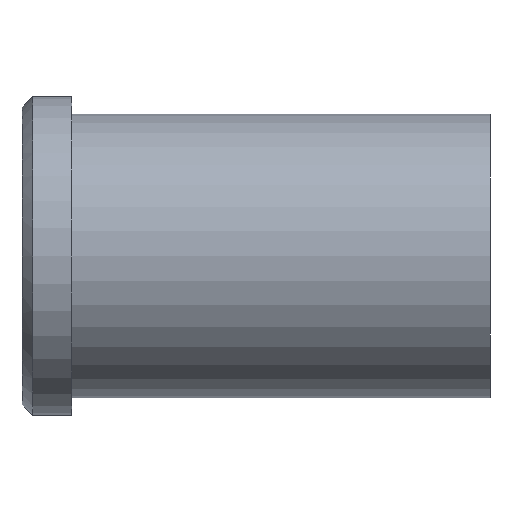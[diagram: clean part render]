
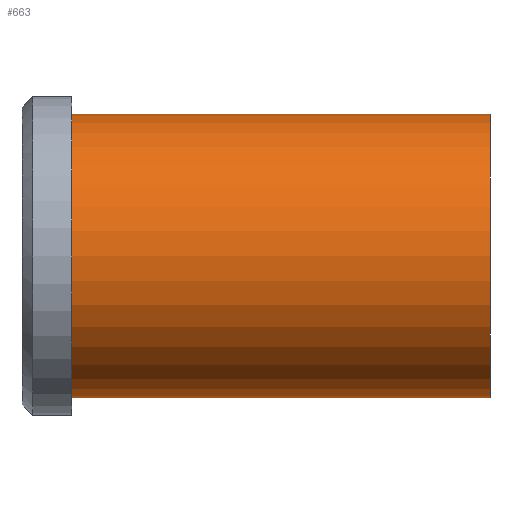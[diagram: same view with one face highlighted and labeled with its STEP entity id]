
A CAD part, front view. The second image highlights one B-rep face of the part: STEP entity #663.
In plain terms, the highlighted cylindrical face has radius 20 mm (diameter 40 mm), a partial arc.
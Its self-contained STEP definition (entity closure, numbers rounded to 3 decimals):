
#501=CARTESIAN_POINT('Vertex',(0.,0.,-20.)) ;
#506=CARTESIAN_POINT('Axis2P3D Location',(0.,0.,0.)) ;
#510=CARTESIAN_POINT('Vertex',(0.,-20.,0.)) ;
#513=CARTESIAN_POINT('Axis2P3D Location',(0.,0.,0.)) ;
#517=CARTESIAN_POINT('Vertex',(0.,0.,20.)) ;
#603=CARTESIAN_POINT('Line Origine',(59.,0.,20.)) ;
#607=CARTESIAN_POINT('Vertex',(59.,0.,20.)) ;
#621=CARTESIAN_POINT('Vertex',(59.,0.,-20.)) ;
#624=CARTESIAN_POINT('Line Origine',(59.,0.,-20.)) ;
#638=CARTESIAN_POINT('Axis2P3D Location',(59.,0.,0.)) ;
#643=CARTESIAN_POINT('Axis2P3D Location',(59.,0.,0.)) ;
#647=CARTESIAN_POINT('Vertex',(59.,-20.,0.)) ;
#650=CARTESIAN_POINT('Axis2P3D Location',(59.,0.,0.)) ;
#507=DIRECTION('Axis2P3D Direction',(1.,0.,-0.)) ;
#514=DIRECTION('Axis2P3D Direction',(1.,0.,-0.)) ;
#604=DIRECTION('Vector Direction',(-1.,0.,0.)) ;
#625=DIRECTION('Vector Direction',(-1.,0.,0.)) ;
#639=DIRECTION('Axis2P3D Direction',(-1.,-0.,-0.)) ;
#640=DIRECTION('Axis2P3D XDirection',(0.,0.,-1.)) ;
#644=DIRECTION('Axis2P3D Direction',(-1.,-0.,-0.)) ;
#651=DIRECTION('Axis2P3D Direction',(-1.,-0.,-0.)) ;
#508=AXIS2_PLACEMENT_3D('Circle Axis2P3D',#506,#507,$) ;
#515=AXIS2_PLACEMENT_3D('Circle Axis2P3D',#513,#514,$) ;
#641=AXIS2_PLACEMENT_3D('Cylinder Axis2P3D',#638,#639,#640) ;
#645=AXIS2_PLACEMENT_3D('Circle Axis2P3D',#643,#644,$) ;
#652=AXIS2_PLACEMENT_3D('Circle Axis2P3D',#650,#651,$) ;
#656=ORIENTED_EDGE('',*,*,#628,.T.) ;
#657=ORIENTED_EDGE('',*,*,#649,.F.) ;
#658=ORIENTED_EDGE('',*,*,#654,.F.) ;
#659=ORIENTED_EDGE('',*,*,#609,.T.) ;
#660=ORIENTED_EDGE('',*,*,#519,.T.) ;
#661=ORIENTED_EDGE('',*,*,#512,.T.) ;
#605=VECTOR('Line Direction',#604,1.) ;
#626=VECTOR('Line Direction',#625,1.) ;
#663=ADVANCED_FACE('353-32X66',(#662),#642,.T.) ;
#509=CIRCLE('generated circle',#508,20.) ;
#516=CIRCLE('generated circle',#515,20.) ;
#646=CIRCLE('generated circle',#645,20.) ;
#653=CIRCLE('generated circle',#652,20.) ;
#642=CYLINDRICAL_SURFACE('generated cylinder',#641,20.) ;
#512=EDGE_CURVE('',#511,#502,#509,.T.) ;
#519=EDGE_CURVE('',#518,#511,#516,.T.) ;
#609=EDGE_CURVE('',#608,#518,#606,.T.) ;
#628=EDGE_CURVE('',#502,#622,#627,.F.) ;
#649=EDGE_CURVE('',#648,#622,#646,.F.) ;
#654=EDGE_CURVE('',#608,#648,#653,.F.) ;
#655=EDGE_LOOP('',(#656,#657,#658,#659,#660,#661)) ;
#662=FACE_OUTER_BOUND('',#655,.T.) ;
#606=LINE('Line',#603,#605) ;
#627=LINE('Line',#624,#626) ;
#502=VERTEX_POINT('',#501) ;
#511=VERTEX_POINT('',#510) ;
#518=VERTEX_POINT('',#517) ;
#608=VERTEX_POINT('',#607) ;
#622=VERTEX_POINT('',#621) ;
#648=VERTEX_POINT('',#647) ;
